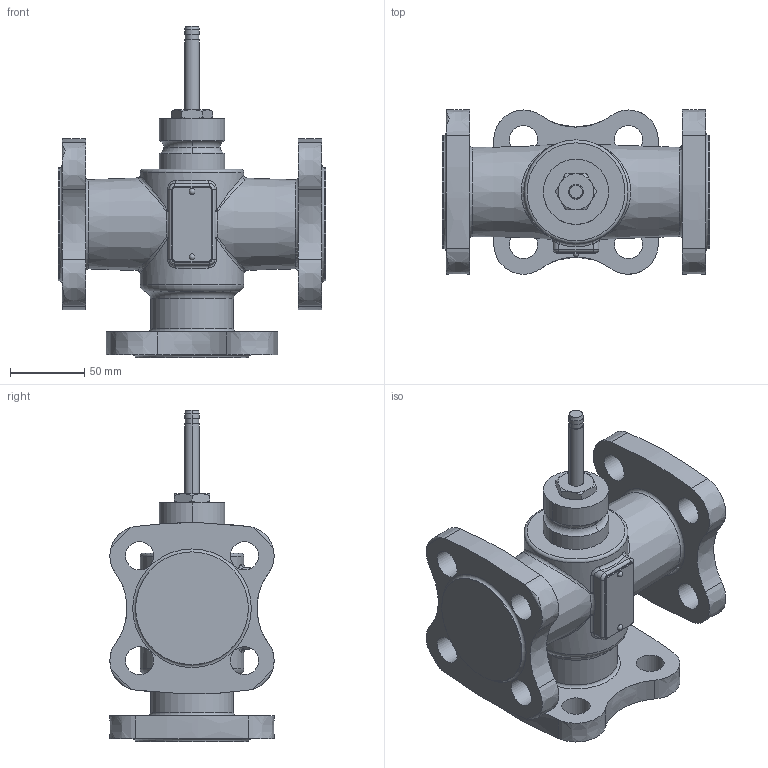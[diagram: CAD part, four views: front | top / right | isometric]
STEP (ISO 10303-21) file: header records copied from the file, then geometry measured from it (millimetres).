
FILE_DESCRIPTION(/* description */ ('Step214'),/* implementation_level */ '2;1');
FILE_NAME(/* name */ 'VXF32_42 DN32 RF.stp',/* time_stamp */ '2015-11-04T11:51:49+01:00',/* author */ (''),/* organization */ ('Siemens'),/* preprocessor_version */ 'ST-DEVELOPER v15',/* originating_system */ 'SIEMENS PLM Software NX 8.5',/* authorisation */ 'for Duktil only');
FILE_SCHEMA (('AUTOMOTIVE_DESIGN { 1 0 10303 214 3 1 1 1 }'));
Length unit declared in the file: millimetre
Products named in the file (1): Volc0CEC07D0adkv
Bounding box: 180 x 110.7 x 223.5 mm (x, y, z)
Volume: 1202408 mm3; surface area: 129825.3 mm2
Topology: 1 solids, 1 shells, 142 faces, 352 edges, 222 vertices
Faces by surface type: cylinder 42, plane 31, extrusion 24, torus 23, cone 8, bspline 8, sphere 6
Full cylindrical faces by diameter (mm): 19 x12, 56 x1, 70 x1, 76 x2
Entity records: 6013 total; most frequent: CARTESIAN_POINT 2856, ORIENTED_EDGE 622, DIRECTION 606, EDGE_CURVE 311, AXIS2_PLACEMENT_3D 248, VERTEX_POINT 213, EDGE_LOOP 208, ADVANCED_FACE 142
